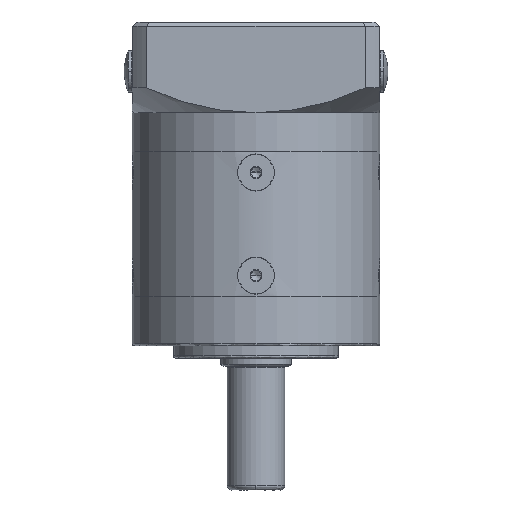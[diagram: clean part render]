
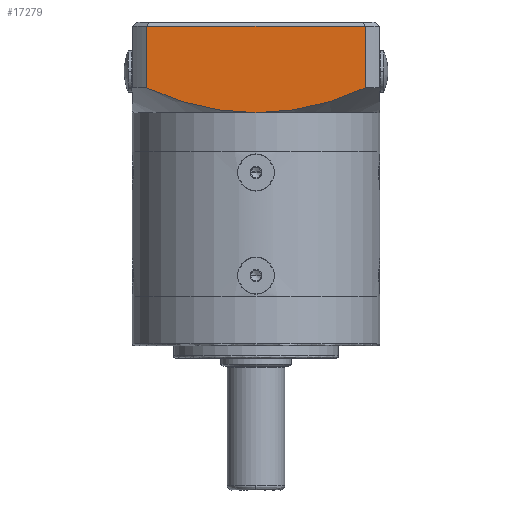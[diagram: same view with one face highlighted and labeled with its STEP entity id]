
A CAD part, front view. The second image highlights one B-rep face of the part: STEP entity #17279.
In plain terms, the highlighted planar face has unit normal (0, -1, 0).
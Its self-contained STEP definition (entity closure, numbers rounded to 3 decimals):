
#7 = CARTESIAN_POINT ( 'NONE',  ( -27.207, -47.345, 32.368 ) ) ;
#712 = CARTESIAN_POINT ( 'NONE',  ( 1.548, -47.345, 26.334 ) ) ;
#2262 = EDGE_CURVE ( 'NONE', #35356, #37552, #46974, .T. ) ;
#4347 = CARTESIAN_POINT ( 'NONE',  ( -0.75, -47.345, 26.334 ) ) ;
#4715 = CARTESIAN_POINT ( 'NONE',  ( 25.708, -47.345, 26.334 ) ) ;
#4753 = CARTESIAN_POINT ( 'NONE',  ( 15.072, -47.345, 28.377 ) ) ;
#5275 = CARTESIAN_POINT ( 'NONE',  ( -23.016, -47.345, 30.495 ) ) ;
#5733 = LINE ( 'NONE', #24206, #17602 ) ;
#6177 = CARTESIAN_POINT ( 'NONE',  ( 25.708, -47.345, 32.368 ) ) ;
#7570 = DIRECTION ( 'NONE',  ( 1., 0., 0. ) ) ;
#8188 = EDGE_LOOP ( 'NONE', ( #26383, #53197, #27521, #12225, #30702 ) ) ;
#9282 = CARTESIAN_POINT ( 'NONE',  ( -16.488, -47.345, 28.355 ) ) ;
#9955 = CARTESIAN_POINT ( 'NONE',  ( 23.637, -47.345, 31.372 ) ) ;
#12140 = DIRECTION ( 'NONE',  ( -1., 0., 0. ) ) ;
#12154 = LINE ( 'NONE', #40236, #19502 ) ;
#12225 = ORIENTED_EDGE ( 'NONE', *, *, #39277, .F. ) ;
#13345 = EDGE_CURVE ( 'NONE', #48587, #35356, #12154, .T. ) ;
#13939 = AXIS2_PLACEMENT_3D ( 'NONE', #55325, #35867, #12140 ) ;
#13960 = CARTESIAN_POINT ( 'NONE',  ( 3.839, -47.345, 26.464 ) ) ;
#14261 = CARTESIAN_POINT ( 'NONE',  ( 25.708, -47.345, 32.368 ) ) ;
#14552 = CARTESIAN_POINT ( 'NONE',  ( -0.75, -47.345, 26.334 ) ) ;
#17047 = FACE_OUTER_BOUND ( 'NONE', #8188, .T. ) ;
#17223 = CARTESIAN_POINT ( 'NONE',  ( -27.207, -47.345, 47.334 ) ) ;
#17279 = ADVANCED_FACE ( 'NONE', ( #17047 ), #25993, .F. ) ;
#17602 = VECTOR ( 'NONE', #24502, 1000. ) ;
#18776 = CARTESIAN_POINT ( 'NONE',  ( -9.831, -47.345, 26.971 ) ) ;
#19502 = VECTOR ( 'NONE', #7570, 1000. ) ;
#23819 = CARTESIAN_POINT ( 'NONE',  ( 17.248, -47.345, 29.005 ) ) ;
#24206 = CARTESIAN_POINT ( 'NONE',  ( -27.207, -47.345, 48.334 ) ) ;
#24502 = DIRECTION ( 'NONE',  ( 0., 0., 1. ) ) ;
#24684 = EDGE_CURVE ( 'NONE', #56325, #56502, #59559, .T. ) ;
#25993 = PLANE ( 'NONE',  #13939 ) ;
#26061 = EDGE_CURVE ( 'NONE', #56502, #48587, #5733, .T. ) ;
#26383 = ORIENTED_EDGE ( 'NONE', *, *, #13345, .F. ) ;
#27521 = ORIENTED_EDGE ( 'NONE', *, *, #24684, .F. ) ;
#28046 = CARTESIAN_POINT ( 'NONE',  ( -25.137, -47.345, 31.372 ) ) ;
#30702 = ORIENTED_EDGE ( 'NONE', *, *, #2262, .F. ) ;
#33283 = CARTESIAN_POINT ( 'NONE',  ( -3.047, -47.345, 26.334 ) ) ;
#35356 = VERTEX_POINT ( 'NONE', #52583 ) ;
#35867 = DIRECTION ( 'NONE',  ( 0., 1., 0. ) ) ;
#37552 = VERTEX_POINT ( 'NONE', #6177 ) ;
#37625 = CARTESIAN_POINT ( 'NONE',  ( -12.064, -47.345, 27.349 ) ) ;
#39277 = EDGE_CURVE ( 'NONE', #37552, #56325, #40118, .T. ) ;
#40118 = B_SPLINE_CURVE_WITH_KNOTS ( 'NONE', 3,
 ( #14261, #9955, #47591, #23819, #4753, #42962, #57479, #13960, #712, #14552 ),
 .UNSPECIFIED., .F., .F.,
 ( 4, 2, 2, 2, 4 ),
 ( 0., 0.007, 0.014, 0.02, 0.027 ),
 .UNSPECIFIED. ) ;
#40236 = CARTESIAN_POINT ( 'NONE',  ( -30.75, -47.345, 47.334 ) ) ;
#42309 = DIRECTION ( 'NONE',  ( 0., 0., -1. ) ) ;
#42573 = CARTESIAN_POINT ( 'NONE',  ( -18.679, -47.345, 28.982 ) ) ;
#42962 = CARTESIAN_POINT ( 'NONE',  ( 10.649, -47.345, 27.365 ) ) ;
#46078 = CARTESIAN_POINT ( 'NONE',  ( -27.207, -47.345, 32.368 ) ) ;
#46974 = LINE ( 'NONE', #4715, #59219 ) ;
#47591 = CARTESIAN_POINT ( 'NONE',  ( 21.531, -47.345, 30.502 ) ) ;
#48587 = VERTEX_POINT ( 'NONE', #17223 ) ;
#52583 = CARTESIAN_POINT ( 'NONE',  ( 25.708, -47.345, 47.334 ) ) ;
#53197 = ORIENTED_EDGE ( 'NONE', *, *, #26061, .F. ) ;
#55325 = CARTESIAN_POINT ( 'NONE',  ( 29.25, -47.345, 48.334 ) ) ;
#56325 = VERTEX_POINT ( 'NONE', #57239 ) ;
#56462 = CARTESIAN_POINT ( 'NONE',  ( -5.323, -47.345, 26.464 ) ) ;
#56502 = VERTEX_POINT ( 'NONE', #46078 ) ;
#57239 = CARTESIAN_POINT ( 'NONE',  ( -0.75, -47.345, 26.334 ) ) ;
#57479 = CARTESIAN_POINT ( 'NONE',  ( 8.403, -47.345, 26.981 ) ) ;
#59219 = VECTOR ( 'NONE', #42309, 1000. ) ;
#59559 = B_SPLINE_CURVE_WITH_KNOTS ( 'NONE', 3,
 ( #4347, #33283, #56462, #18776, #37625, #9282, #42573, #5275, #28046, #7 ),
 .UNSPECIFIED., .F., .F.,
 ( 4, 2, 2, 2, 4 ),
 ( 0., 0.007, 0.014, 0.02, 0.027 ),
 .UNSPECIFIED. ) ;
